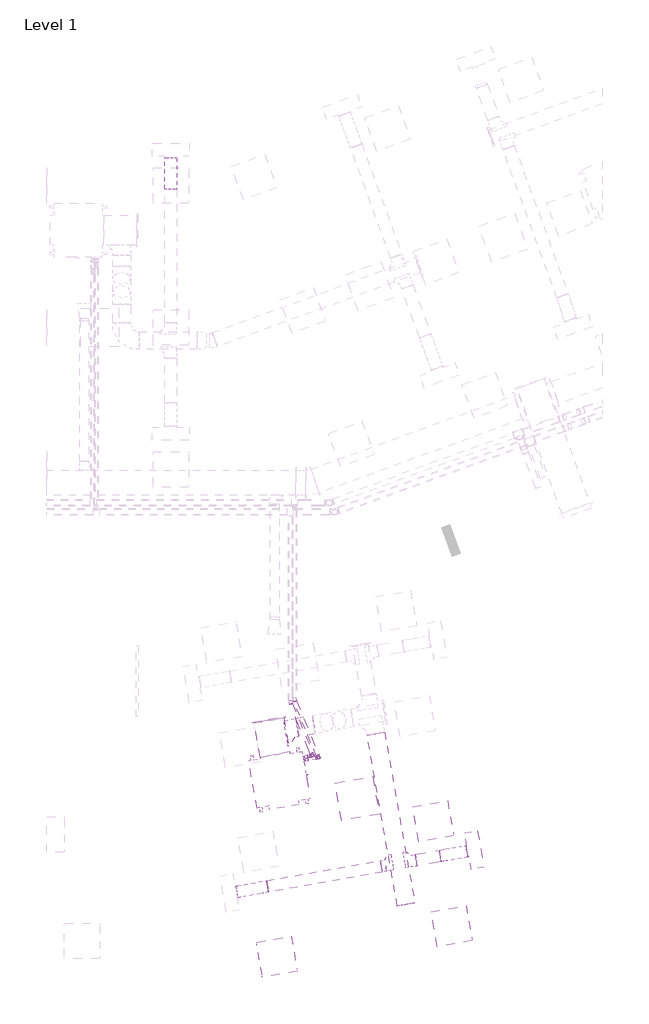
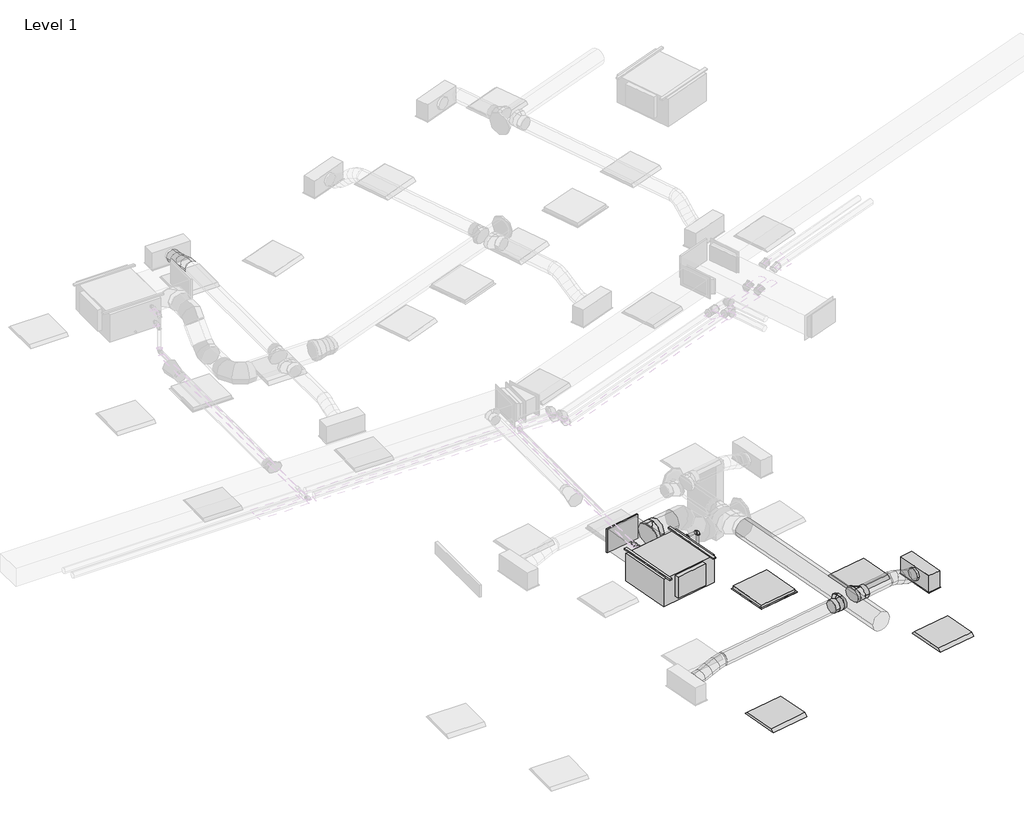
# One storey, part 15 of 30: 8 duct segments, 8 pipe fittings, 6 pipe segments, 4 duct fittings, 3 light fixtures, 2 air terminals, 1 proxy.
"""IFC4 building model written with IfcOpenShell, lengths in millimetres."""

from ifc_helpers import new_model, si_unit, point, frame, frame_2d, origin, place, context, project, spatial, polyline, circle_curve, ellipse_curve, trimmed, segment, composite_curve, outline, extrude, transform, mapped, element, save
from ifc_brep_helpers import plane_surface, cylinder_surface, advanced_brep
from components import return_grille_rectangular_hosted_standard_7b12617c, supply_diffuser_with_plenum_linear_slot_hosted_8e4f2f20, fan_coil_unit_ceiling_ducted_chw_376_lps_05d42c19, dw144_rectangular_blank_end_standard_8fde7d16, dw144_round_shoe_branch_slip_joint1_standard_2_3a899113, dw144_round_shoe_branch_slip_joint1_standard_2_809a1802, light_fixture_1c7c1157, light_fixture_b730b5ca, elbow_threaded_gmi_standard_b4aa7741, elbow_threaded_gmi_standard_b1050e4a, socket_reducing_threaded_gmi_standard_0a4076b8

model = new_model("IFC4")

# Units and contexts
model_context = context("Model", 3, world=origin())
ifc_project = project(units=[si_unit("LENGTHUNIT", "METRE", prefix="MILLI")], contexts=[model_context])

# Site, building, storey
site = spatial("IfcSite", under=ifc_project)
building = spatial("IfcBuilding", under=site)
storey = spatial("IfcBuildingStorey", under=building, Name="Level 1", Elevation=3900.0)

# Air terminals
placement = place(None, origin())
return_grille_rectangular_hosted_standard_shape = return_grille_rectangular_hosted_standard_7b12617c(model_context)
element("IfcAirTerminal", 1, ObjectType="Return Grille - Rectangular - Hosted : Standard", at=placement, inside=storey, context=model_context, shape_type="MappedRepresentation", body=[
    mapped(return_grille_rectangular_hosted_standard_shape, transform((33910.5082617, 3801.8100308, 6700.0), x_axis=(0.9848077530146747, 0.17364817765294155, 0.0), y_axis=(0.17364817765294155, -0.9848077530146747, 0.0), z_axis=(0.0, 0.0, -1.0))),
])
supply_diffuser_with_plenum_linear_slot_hosted_shape = supply_diffuser_with_plenum_linear_slot_hosted_8e4f2f20(model_context)
element("IfcAirTerminal", 2, ObjectType="Supply Diffuser with Plenum - Linear Slot - Hosted : 24\" x 8\"-200 In Inlet  4-Slot", at=placement, inside=storey, context=model_context, shape_type="MappedRepresentation", body=[
    mapped(supply_diffuser_with_plenum_linear_slot_hosted_shape, transform((35891.5400303, 2932.607447, 6700.0), x_axis=(0.1736481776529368, -0.9848077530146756, 0.0), y_axis=(-0.9848077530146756, -0.1736481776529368, 0.0), z_axis=(0.0, 0.0, -1.0))),
])

# Proxy
fan_coil_unit_ceiling_ducted_chw_376_lps_shape = fan_coil_unit_ceiling_ducted_chw_376_lps_05d42c19(model_context)
element("IfcBuildingElementProxy", 3, Name="Fan Coil Unit - Ceiling Ducted - CHW : 376 LPS", ObjectType="Fan Coil Unit - Ceiling Ducted - CHW : 376 LPS", at=placement, inside=storey, context=model_context, shape_type="MappedRepresentation", body=[
    mapped(fan_coil_unit_ceiling_ducted_chw_376_lps_shape, transform((32078.1076261, 4440.8551668, 7115.575), x_axis=(0.9848077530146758, 0.17364817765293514, 0.0), y_axis=(-0.17364817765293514, 0.9848077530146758, 0.0), z_axis=(0.0, 0.0, 1.0))),
])

# Duct fittings
dw144_rectangular_blank_end_standard_shape = dw144_rectangular_blank_end_standard_8fde7d16(model_context)
element("IfcDuctFitting", 4, ObjectType="DW144 Rectangular Blank End : Standard", at=placement, inside=storey, context=model_context, shape_type="MappedRepresentation", body=[
    mapped(dw144_rectangular_blank_end_standard_shape, transform((32422.2764887, 5121.8864184, 7369.575), x_axis=(-0.17364817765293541, 0.9848077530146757, 0.0), y_axis=(-0.9848077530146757, -0.17364817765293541, 0.0), z_axis=(0.0, 0.0, 1.0))),
])
dw144_round_shoe_branch_slip_joint1_standard_2_shape = dw144_round_shoe_branch_slip_joint1_standard_2_3a899113(model_context)
element("IfcDuctFitting", 5, ObjectType="DW144 Round Shoe Branch - Slip Joint1 : Standard 2", at=placement, inside=storey, context=model_context, shape_type="MappedRepresentation", body=[
    mapped(dw144_round_shoe_branch_slip_joint1_standard_2_shape, transform((34466.8544313, 2681.3969368, 6972.2088531), x_axis=(-0.9848077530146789, -0.17364817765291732, 0.0), y_axis=(0.17364817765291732, -0.9848077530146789, 0.0), z_axis=(0.0, 0.0, 1.0))),
])
element("IfcDuctFitting", 6, ObjectType="DW144 Round Shoe Branch - Slip Joint1 : Standard 2", at=placement, inside=storey, context=model_context, shape_type="MappedRepresentation", body=[
    mapped(dw144_round_shoe_branch_slip_joint1_standard_2_shape, transform((34762.2967572, 2733.4913901, 6972.2088531), x_axis=(0.9848077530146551, 0.1736481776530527, 0.0), y_axis=(0.1736481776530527, -0.9848077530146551, 0.0), z_axis=(0.0, 0.0, -1.0))),
])
dw144_round_shoe_branch_slip_joint1_standard_2_2_shape = dw144_round_shoe_branch_slip_joint1_standard_2_809a1802(model_context)
element("IfcDuctFitting", 7, ObjectType="DW144 Round Shoe Branch - Slip Joint1 : Standard 2", at=placement, inside=storey, context=model_context, shape_type="MappedRepresentation", body=[
    mapped(dw144_round_shoe_branch_slip_joint1_standard_2_2_shape, transform((32703.167519, 4968.5668456, 7369.575), x_axis=(0.9848077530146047, 0.17364817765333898, 0.0), y_axis=(-0.17364817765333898, 0.9848077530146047, 0.0), z_axis=(0.0, 0.0, 1.0))),
])

# Duct segments
element("IfcDuctSegment", 8, ObjectType="DW144 Flanged Med Radius Bend / Shoe Branch", at=placement, inside=storey, context=model_context, shape_type="SweptSolid", body=[
    extrude(outline(polyline([(32770.1530053, 4588.6732749), (32277.7491288, 4501.8491861), (32176.0745504, 5078.474374), (32668.4784269, 5165.2984628), (32770.1530053, 4588.6732749)])), frame((0.0, 0.0, 7194.575), z_axis=(0.0, 0.0, 1.0), x_axis=(1.0, 0.0, 0.0)), (0.0, 0.0, 1.0), 350.0),
])
element("IfcDuctSegment", 9, ObjectType="DW144 Segmented Bend / Shoe Branch", at=placement, inside=storey, context=model_context, shape_type="SweptSolid", body=[
    extrude(outline(composite_curve([segment(trimmed(circle_curve(frame_2d((0.0, 157.5)), 157.5), [point((157.5, 157.5))], [point((0.0, 0.0))], False, "CARTESIAN"), True, "CONTINUOUS"), segment(trimmed(circle_curve(frame_2d((0.0, 157.5)), 157.5), [point((0.0, 0.0))], [point((-157.5, 157.5))], False, "CARTESIAN"), True, "CONTINUOUS"), segment(trimmed(circle_curve(frame_2d((0.0, 157.5)), 157.5), [point((-157.5, 157.5))], [point((0.0, 315.0))], False, "CARTESIAN"), True, "CONTINUOUS"), segment(trimmed(circle_curve(frame_2d((0.0, 157.5)), 157.5), [point((0.0, 315.0))], [point((157.5, 157.5))], False, "CARTESIAN"), True, "CONTINUOUS")], self_intersect=False)), frame((32900.1290696, 5003.2964811, 7527.075), z_axis=(0.9848077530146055, 0.17364817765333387, 0.0), x_axis=(0.17364817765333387, -0.9848077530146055, 0.0)), (0.0, 0.0, 1.0), 282.8859657),
])
element("IfcDuctSegment", 10, ObjectType="DW144 Segmented Bend / Shoe Branch", at=placement, inside=storey, context=model_context, shape_type="SweptSolid", body=[
    extrude(outline(composite_curve([segment(trimmed(circle_curve(frame_2d((0.0, 100.0)), 100.0), [point((100.0, 100.0))], [point((0.0, 0.0))], False, "CARTESIAN"), True, "CONTINUOUS"), segment(trimmed(circle_curve(frame_2d((0.0, 100.0)), 100.0), [point((0.0, 0.0))], [point((-100.0, 100.0))], False, "CARTESIAN"), True, "CONTINUOUS"), segment(trimmed(circle_curve(frame_2d((0.0, 100.0)), 100.0), [point((-100.0, 100.0))], [point((0.0, 200.0))], False, "CARTESIAN"), True, "CONTINUOUS"), segment(trimmed(circle_curve(frame_2d((0.0, 100.0)), 100.0), [point((0.0, 200.0))], [point((100.0, 100.0))], False, "CARTESIAN"), True, "CONTINUOUS")], self_intersect=False)), frame((34910.0179201, 2759.5386168, 7072.2088531), z_axis=(0.9848077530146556, 0.1736481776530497, 0.0), x_axis=(0.1736481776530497, -0.9848077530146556, 0.0)), (0.0, 0.0, 1.0), 410.0),
])
element("IfcDuctSegment", 11, ObjectType="DW144 Segmented Bend / Shoe Branch", at=placement, inside=storey, context=model_context, shape_type="SweptSolid", body=[
    extrude(outline(composite_curve([segment(trimmed(circle_curve(frame_2d((0.0, -100.0)), 100.0), [point((-100.0, -100.0))], [point((0.0, 0.0))], False, "CARTESIAN"), True, "CONTINUOUS"), segment(trimmed(circle_curve(frame_2d((0.0, -100.0)), 100.0), [point((0.0, 0.0))], [point((100.0, -100.0))], False, "CARTESIAN"), True, "CONTINUOUS"), segment(trimmed(circle_curve(frame_2d((0.0, -100.0)), 100.0), [point((100.0, -100.0))], [point((0.0, -200.0))], False, "CARTESIAN"), True, "CONTINUOUS"), segment(trimmed(circle_curve(frame_2d((0.0, -100.0)), 100.0), [point((0.0, -200.0))], [point((-100.0, -100.0))], False, "CARTESIAN"), True, "CONTINUOUS")], self_intersect=False)), frame((32398.75815, 2316.7357638, 6872.2088531), z_axis=(0.9848077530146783, 0.1736481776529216, 0.0), x_axis=(0.1736481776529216, -0.9848077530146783, 0.0)), (0.0, 0.0, 1.0), 1950.0),
])
element("IfcDuctSegment", 12, ObjectType="DW144 Segmented Bend / Shoe Branch", at=placement, inside=storey, context=model_context, shape_type="SweptSolid", body=[
    extrude(outline(composite_curve([segment(trimmed(circle_curve(frame_2d((0.0, -150.0)), 150.0), [point((-150.0, -150.0))], [point((0.0, 0.0))], False, "CARTESIAN"), True, "CONTINUOUS"), segment(trimmed(circle_curve(frame_2d((0.0, -150.0)), 150.0), [point((0.0, 0.0))], [point((150.0, -150.0))], False, "CARTESIAN"), True, "CONTINUOUS"), segment(trimmed(circle_curve(frame_2d((0.0, -150.0)), 150.0), [point((150.0, -150.0))], [point((0.0, -300.0))], False, "CARTESIAN"), True, "CONTINUOUS"), segment(trimmed(circle_curve(frame_2d((0.0, -150.0)), 150.0), [point((0.0, -300.0))], [point((-150.0, -150.0))], False, "CARTESIAN"), True, "CONTINUOUS")], self_intersect=False)), frame((34737.6074608, 2009.6957754, 6822.2088531), z_axis=(-0.17364817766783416, 0.9848077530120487, 0.0), x_axis=(0.9848077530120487, 0.17364817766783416, 0.0)), (0.0, 0.0, 1.0), 2934.6959585),
])
element("IfcDuctSegment", 13, ObjectType="Flex - Round", at=placement, inside=storey, context=model_context, shape_type="AdvancedBrep", body=[
    advanced_brep(
    [(32416.1229677, 2218.2549885, 6972.2088531), (32398.75815, 2316.7357638, 6872.2088531), (32381.3933322, 2415.2165391, 6972.2088531), (32398.75815, 2316.7357638, 7072.2088531), (32402.5549785, 2215.8625859, 6972.2088531), (32392.7898887, 2315.6833983, 6872.2088531), (32367.825343, 2412.8241365, 6972.2088531), (32377.5904327, 2313.0033241, 7072.2088531), (31899.6540048, 2127.1875756, 6854.4), (31882.289187, 2225.6683509, 6954.4), (31864.9243693, 2324.1491262, 6854.4), (31882.289187, 2225.6683509, 6754.4), (32285.7990868, 2195.275372, 6953.8012198), (32290.7682954, 2297.6942388, 6856.1242166), (32251.0694513, 2392.2369226, 6953.8012198), (32246.1002427, 2289.8180559, 7051.478223), (32157.8884863, 2172.721282, 6913.3044266), (32169.8374093, 2276.3708607, 6817.8372171), (32123.1588507, 2369.6828326, 6913.3044266), (32111.2099277, 2266.0332539, 7008.771636), (32029.9778857, 2150.167192, 6872.8076333), (32034.9470943, 2252.5860588, 6775.1306301), (31995.2482502, 2347.1287427, 6872.8076333), (31990.2790416, 2244.7098759, 6970.4846365), (31913.221994, 2129.5799782, 6854.4), (31903.4569043, 2229.4007906, 6754.4), (31878.4923585, 2326.5415288, 6854.4), (31888.2574483, 2226.7207164, 6954.4)],
    [
        (0, 1, circle_curve(frame((32398.75815, 2316.7357638, 6972.2088531), z_axis=(0.9848077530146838, 0.17364817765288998, 0.0), x_axis=(0.17364817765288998, -0.9848077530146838, 0.0)), 100.0)),
        (1, 2, circle_curve(frame((32398.75815, 2316.7357638, 6972.2088531), z_axis=(0.9848077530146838, 0.17364817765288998, 0.0), x_axis=(0.17364817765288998, -0.9848077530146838, 0.0)), 100.0)),
        (2, 3, circle_curve(frame((32398.75815, 2316.7357638, 6972.2088531), z_axis=(0.9848077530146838, 0.17364817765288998, 0.0), x_axis=(0.17364817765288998, -0.9848077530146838, 0.0)), 100.0)),
        (3, 0, circle_curve(frame((32398.75815, 2316.7357638, 6972.2088531), z_axis=(0.9848077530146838, 0.17364817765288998, 0.0), x_axis=(0.17364817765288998, -0.9848077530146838, 0.0)), 100.0)),
        (0, 4),
        (4, 5, ellipse_curve(frame((32385.1901607, 2314.3433612, 6972.2088531), z_axis=(0.9818884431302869, 0.17313342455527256, 0.07694090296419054), x_axis=(0.07577199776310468, 0.013360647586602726, -0.997035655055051)), 100.2973158, 100.0)),
        (5, 1),
        (5, 6, ellipse_curve(frame((32385.1901607, 2314.3433612, 6972.2088531), z_axis=(0.9818884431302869, 0.17313342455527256, 0.07694090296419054), x_axis=(0.07577199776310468, 0.013360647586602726, -0.997035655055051)), 100.2973158, 100.0)),
        (6, 2),
        (6, 7, ellipse_curve(frame((32385.1901607, 2314.3433612, 6972.2088531), z_axis=(0.9818884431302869, 0.17313342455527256, 0.07694090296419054), x_axis=(0.07577199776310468, 0.013360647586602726, -0.997035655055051)), 100.2973158, 100.0)),
        (7, 3),
        (7, 4, ellipse_curve(frame((32385.1901607, 2314.3433612, 6972.2088531), z_axis=(0.9818884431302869, 0.17313342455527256, 0.07694090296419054), x_axis=(0.07577199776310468, 0.013360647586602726, -0.997035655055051)), 100.2973158, 100.0)),
        (8, 9, circle_curve(frame((31882.289187, 2225.6683509, 6854.4), z_axis=(-0.9848077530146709, -0.1736481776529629, 0.0), x_axis=(0.1736481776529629, -0.9848077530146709, 0.0)), 100.0)),
        (9, 10, circle_curve(frame((31882.289187, 2225.6683509, 6854.4), z_axis=(-0.9848077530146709, -0.1736481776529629, 0.0), x_axis=(0.1736481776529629, -0.9848077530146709, 0.0)), 100.0)),
        (10, 11, circle_curve(frame((31882.289187, 2225.6683509, 6854.4), z_axis=(-0.9848077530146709, -0.1736481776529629, 0.0), x_axis=(0.1736481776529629, -0.9848077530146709, 0.0)), 100.0)),
        (11, 8, circle_curve(frame((31882.289187, 2225.6683509, 6854.4), z_axis=(-0.9848077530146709, -0.1736481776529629, 0.0), x_axis=(0.1736481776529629, -0.9848077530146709, 0.0)), 100.0)),
        (4, 12),
        (12, 13, ellipse_curve(frame((32268.4342691, 2293.7561473, 6953.8012198), z_axis=(0.9592908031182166, 0.1691488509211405, 0.22616326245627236), x_axis=(0.22272733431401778, 0.03927283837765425, -0.9740894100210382)), 100.2751926, 100.0)),
        (13, 5),
        (13, 14, ellipse_curve(frame((32268.4342691, 2293.7561473, 6953.8012198), z_axis=(0.9592908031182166, 0.1691488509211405, 0.22616326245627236), x_axis=(0.22272733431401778, 0.03927283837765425, -0.9740894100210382)), 100.2751926, 100.0)),
        (14, 6),
        (14, 15, ellipse_curve(frame((32268.4342691, 2293.7561473, 6953.8012198), z_axis=(0.9592908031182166, 0.1691488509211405, 0.22616326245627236), x_axis=(0.22272733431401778, 0.03927283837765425, -0.9740894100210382)), 100.2751926, 100.0)),
        (15, 7),
        (15, 12, ellipse_curve(frame((32268.4342691, 2293.7561473, 6953.8012198), z_axis=(0.9592908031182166, 0.1691488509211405, 0.22616326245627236), x_axis=(0.22272733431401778, 0.03927283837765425, -0.9740894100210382)), 100.2751926, 100.0)),
        (12, 16),
        (16, 17, circle_curve(frame((32140.5236685, 2271.2020573, 6913.3044266), z_axis=(0.9401684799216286, 0.1657770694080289, 0.29765952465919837), x_axis=(0.17364817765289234, -0.9848077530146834, 0.0)), 100.0)),
        (17, 13),
        (17, 18, circle_curve(frame((32140.5236685, 2271.2020573, 6913.3044266), z_axis=(0.9401684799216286, 0.1657770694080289, 0.29765952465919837), x_axis=(0.17364817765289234, -0.9848077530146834, 0.0)), 100.0)),
        (18, 14),
        (18, 19, circle_curve(frame((32140.5236685, 2271.2020573, 6913.3044266), z_axis=(0.9401684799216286, 0.1657770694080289, 0.29765952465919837), x_axis=(0.17364817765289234, -0.9848077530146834, 0.0)), 100.0)),
        (19, 15),
        (19, 16, circle_curve(frame((32140.5236685, 2271.2020573, 6913.3044266), z_axis=(0.9401684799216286, 0.1657770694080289, 0.29765952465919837), x_axis=(0.17364817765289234, -0.9848077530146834, 0.0)), 100.0)),
        (16, 20),
        (20, 21, ellipse_curve(frame((32012.6130679, 2248.6479673, 6872.8076333), z_axis=(0.9592908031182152, 0.16914885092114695, 0.22616326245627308), x_axis=(-0.22272733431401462, -0.03927283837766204, 0.9740894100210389)), 100.2751926, 100.0)),
        (21, 17),
        (21, 22, ellipse_curve(frame((32012.6130679, 2248.6479673, 6872.8076333), z_axis=(0.9592908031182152, 0.16914885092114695, 0.22616326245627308), x_axis=(-0.22272733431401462, -0.03927283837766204, 0.9740894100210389)), 100.2751926, 100.0)),
        (22, 18),
        (22, 23, ellipse_curve(frame((32012.6130679, 2248.6479673, 6872.8076333), z_axis=(0.9592908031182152, 0.16914885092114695, 0.22616326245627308), x_axis=(-0.22272733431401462, -0.03927283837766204, 0.9740894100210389)), 100.2751926, 100.0)),
        (23, 19),
        (23, 20, ellipse_curve(frame((32012.6130679, 2248.6479673, 6872.8076333), z_axis=(0.9592908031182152, 0.16914885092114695, 0.22616326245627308), x_axis=(-0.22272733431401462, -0.03927283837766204, 0.9740894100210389)), 100.2751926, 100.0)),
        (20, 24),
        (24, 25, ellipse_curve(frame((31895.8571763, 2228.0607535, 6854.4), z_axis=(0.9818884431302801, 0.17313342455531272, 0.07694090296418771), x_axis=(-0.0757719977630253, -0.013360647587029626, 0.9970356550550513)), 100.2973158, 100.0)),
        (25, 21),
        (25, 26, ellipse_curve(frame((31895.8571763, 2228.0607535, 6854.4), z_axis=(0.9818884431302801, 0.17313342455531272, 0.07694090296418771), x_axis=(-0.0757719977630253, -0.013360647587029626, 0.9970356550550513)), 100.2973158, 100.0)),
        (26, 22),
        (26, 27, ellipse_curve(frame((31895.8571763, 2228.0607535, 6854.4), z_axis=(0.9818884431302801, 0.17313342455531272, 0.07694090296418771), x_axis=(-0.0757719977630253, -0.013360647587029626, 0.9970356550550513)), 100.2973158, 100.0)),
        (27, 23),
        (27, 24, ellipse_curve(frame((31895.8571763, 2228.0607535, 6854.4), z_axis=(0.9818884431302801, 0.17313342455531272, 0.07694090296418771), x_axis=(-0.0757719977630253, -0.013360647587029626, 0.9970356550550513)), 100.2973158, 100.0)),
        (24, 8),
        (11, 25),
        (10, 26),
        (9, 27),
    ],
    [
        plane_surface(frame((32398.75815, 2316.7357638, 6872.2088531), z_axis=(0.9848077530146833, 0.17364817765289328, 0.0), x_axis=(0.17364817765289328, -0.9848077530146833, 0.0))),
        cylinder_surface(frame((32398.75815, 2316.7357638, 6972.2088531), z_axis=(0.9848077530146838, 0.17364817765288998, 0.0), x_axis=(0.17364817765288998, -0.9848077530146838, 0.0)), 100.0),
        plane_surface(frame((31882.289187, 2225.6683509, 6754.4), z_axis=(-0.9848077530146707, -0.1736481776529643, 0.0), x_axis=(0.1736481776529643, -0.9848077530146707, 0.0))),
        cylinder_surface(frame((32385.1901607, 2314.3433612, 6972.2088531), z_axis=(0.9731478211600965, 0.17159221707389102, 0.15342564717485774), x_axis=(0.17364817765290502, -0.9848077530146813, 0.0)), 100.0),
        cylinder_surface(frame((32268.4342691, 2293.7561473, 6953.8012198), z_axis=(0.9401684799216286, 0.1657770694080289, 0.29765952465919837), x_axis=(0.17364817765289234, -0.9848077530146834, 0.0)), 100.0),
        cylinder_surface(frame((32140.5236685, 2271.2020573, 6913.3044266), z_axis=(0.9401684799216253, 0.16577706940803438, 0.2976595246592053), x_axis=(0.17364817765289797, -0.9848077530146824, 0.0)), 100.0),
        cylinder_surface(frame((32012.6130679, 2248.6479673, 6872.8076333), z_axis=(0.9731478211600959, 0.1715922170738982, 0.153425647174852), x_axis=(0.17364817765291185, -0.9848077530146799, 0.0)), 100.0),
        cylinder_surface(frame((31895.8571763, 2228.0607535, 6854.4), z_axis=(0.9848077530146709, 0.1736481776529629, 0.0), x_axis=(0.1736481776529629, -0.9848077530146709, 0.0)), 100.0),
    ],
    [
        (0, [[1, 2, 3, 4]]),
        (1, [[-1, 5, 6, 7]]),
        (1, [[-2, -7, 8, 9]]),
        (1, [[-3, -9, 10, 11]]),
        (1, [[-4, -11, 12, -5]]),
        (2, [[13, 14, 15, 16]]),
        (3, [[-6, 17, 18, 19]]),
        (3, [[-8, -19, 20, 21]]),
        (3, [[-10, -21, 22, 23]]),
        (3, [[-12, -23, 24, -17]]),
        (4, [[-18, 25, 26, 27]]),
        (4, [[-20, -27, 28, 29]]),
        (4, [[-22, -29, 30, 31]]),
        (4, [[-24, -31, 32, -25]]),
        (5, [[-26, 33, 34, 35]]),
        (5, [[-28, -35, 36, 37]]),
        (5, [[-30, -37, 38, 39]]),
        (5, [[-32, -39, 40, -33]]),
        (6, [[-34, 41, 42, 43]]),
        (6, [[-36, -43, 44, 45]]),
        (6, [[-38, -45, 46, 47]]),
        (6, [[-40, -47, 48, -41]]),
        (7, [[-42, 49, -16, 50]]),
        (7, [[-44, -50, -15, 51]]),
        (7, [[-46, -51, -14, 52]]),
        (7, [[-48, -52, -13, -49]]),
    ],
),
])
element("IfcDuctSegment", 14, ObjectType="Flex - Round", at=placement, inside=storey, context=model_context, shape_type="AdvancedBrep", body=[
    advanced_brep(
    [(35296.4242811, 2929.2151449, 6972.2088531), (35313.7890989, 2830.7343696, 6872.2088531), (35331.1539166, 2732.2535943, 6972.2088531), (35313.7890989, 2830.7343696, 7072.2088531), (35311.8796078, 2931.940336, 6972.2088531), (35320.2687944, 2831.8769148, 6872.2088531), (35346.6092434, 2734.9787854, 6972.2088531), (35338.2200568, 2835.0422067, 7072.2088531), (35747.2334932, 3008.7049722, 6854.4), (35764.598311, 2910.2241969, 6954.4), (35781.9631287, 2811.7434216, 6854.4), (35764.598311, 2910.2241969, 6754.4), (35410.503757, 2949.3304345, 6953.8012198), (35402.1917374, 2846.32214, 6856.9184044), (35445.2333925, 2752.3688839, 6953.8012198), (35453.545412, 2855.3771784, 7050.6840352), (35521.8288872, 2968.9600585, 6913.3044266), (35505.9805148, 2864.6229017, 6819.1631137), (35556.5585227, 2771.9985079, 6913.3044266), (35572.4068951, 2876.3356648, 7007.4457395), (35633.1540174, 2988.5896826, 6872.8076333), (35624.8419978, 2885.5813881, 6775.9248179), (35667.8836529, 2791.628132, 6872.8076333), (35676.1956724, 2894.6364265, 6969.6904487), (35731.7781665, 3005.9797811, 6854.4), (35740.1673531, 2905.9163598, 6754.4), (35766.507802, 2809.0182305, 6854.4), (35758.1186154, 2909.0816517, 6954.4)],
    [
        (0, 1, circle_curve(frame((35313.7890989, 2830.7343696, 6972.2088531), z_axis=(-0.984807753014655, -0.1736481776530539, 0.0), x_axis=(-0.1736481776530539, 0.984807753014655, 0.0)), 100.0)),
        (1, 2, circle_curve(frame((35313.7890989, 2830.7343696, 6972.2088531), z_axis=(-0.984807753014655, -0.1736481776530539, 0.0), x_axis=(-0.1736481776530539, 0.984807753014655, 0.0)), 100.0)),
        (2, 3, circle_curve(frame((35313.7890989, 2830.7343696, 6972.2088531), z_axis=(-0.984807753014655, -0.1736481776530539, 0.0), x_axis=(-0.1736481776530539, 0.984807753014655, 0.0)), 100.0)),
        (3, 0, circle_curve(frame((35313.7890989, 2830.7343696, 6972.2088531), z_axis=(-0.984807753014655, -0.1736481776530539, 0.0), x_axis=(-0.1736481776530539, 0.984807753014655, 0.0)), 100.0)),
        (0, 4),
        (4, 5, ellipse_curve(frame((35329.2444256, 2833.4595607, 6972.2088531), z_axis=(-0.9807428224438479, -0.1729314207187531, 0.09076475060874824), x_axis=(-0.08938583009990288, -0.015761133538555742, -0.9958723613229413)), 100.4144747, 100.0)),
        (5, 1),
        (5, 6, ellipse_curve(frame((35329.2444256, 2833.4595607, 6972.2088531), z_axis=(-0.9807428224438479, -0.1729314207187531, 0.09076475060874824), x_axis=(-0.08938583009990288, -0.015761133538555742, -0.9958723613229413)), 100.4144747, 100.0)),
        (6, 2),
        (6, 7, ellipse_curve(frame((35329.2444256, 2833.4595607, 6972.2088531), z_axis=(-0.9807428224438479, -0.1729314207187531, 0.09076475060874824), x_axis=(-0.08938583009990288, -0.015761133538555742, -0.9958723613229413)), 100.4144747, 100.0)),
        (7, 3),
        (7, 4, ellipse_curve(frame((35329.2444256, 2833.4595607, 6972.2088531), z_axis=(-0.9807428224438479, -0.1729314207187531, 0.09076475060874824), x_axis=(-0.08938583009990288, -0.015761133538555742, -0.9958723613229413)), 100.4144747, 100.0)),
        (8, 9, circle_curve(frame((35764.598311, 2910.2241969, 6854.4), z_axis=(0.9848077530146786, 0.1736481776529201, 0.0), x_axis=(-0.1736481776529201, 0.9848077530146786, 0.0)), 100.0)),
        (9, 10, circle_curve(frame((35764.598311, 2910.2241969, 6854.4), z_axis=(0.9848077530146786, 0.1736481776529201, 0.0), x_axis=(-0.1736481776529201, 0.9848077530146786, 0.0)), 100.0)),
        (10, 11, circle_curve(frame((35764.598311, 2910.2241969, 6854.4), z_axis=(0.9848077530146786, 0.1736481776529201, 0.0), x_axis=(-0.1736481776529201, 0.9848077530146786, 0.0)), 100.0)),
        (11, 8, circle_curve(frame((35764.598311, 2910.2241969, 6854.4), z_axis=(0.9848077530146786, 0.1736481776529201, 0.0), x_axis=(-0.1736481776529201, 0.9848077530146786, 0.0)), 100.0)),
        (4, 12),
        (12, 13, ellipse_curve(frame((35427.8685747, 2850.8496592, 6953.8012198), z_axis=(-0.9509727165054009, -0.16768214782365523, 0.2598722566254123), x_axis=(-0.25592421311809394, -0.045126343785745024, -0.9656430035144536)), 100.3298476, 100.0)),
        (13, 5),
        (13, 14, ellipse_curve(frame((35427.8685747, 2850.8496592, 6953.8012198), z_axis=(-0.9509727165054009, -0.16768214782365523, 0.2598722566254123), x_axis=(-0.25592421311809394, -0.045126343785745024, -0.9656430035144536)), 100.3298476, 100.0)),
        (14, 6),
        (14, 15, ellipse_curve(frame((35427.8685747, 2850.8496592, 6953.8012198), z_axis=(-0.9509727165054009, -0.16768214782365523, 0.2598722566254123), x_axis=(-0.25592421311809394, -0.045126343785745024, -0.9656430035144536)), 100.3298476, 100.0)),
        (15, 7),
        (15, 12, ellipse_curve(frame((35427.8685747, 2850.8496592, 6953.8012198), z_axis=(-0.9509727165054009, -0.16768214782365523, 0.2598722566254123), x_axis=(-0.25592421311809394, -0.045126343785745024, -0.9656430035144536)), 100.3298476, 100.0)),
        (12, 16),
        (16, 17, circle_curve(frame((35539.1937049, 2870.4792832, 6913.3044266), z_axis=(-0.9271109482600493, -0.16347467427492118, 0.33725557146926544), x_axis=(-0.1736481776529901, 0.9848077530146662, 0.0)), 100.0)),
        (17, 13),
        (17, 18, circle_curve(frame((35539.1937049, 2870.4792832, 6913.3044266), z_axis=(-0.9271109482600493, -0.16347467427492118, 0.33725557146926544), x_axis=(-0.1736481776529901, 0.9848077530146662, 0.0)), 100.0)),
        (18, 14),
        (18, 19, circle_curve(frame((35539.1937049, 2870.4792832, 6913.3044266), z_axis=(-0.9271109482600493, -0.16347467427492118, 0.33725557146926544), x_axis=(-0.1736481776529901, 0.9848077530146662, 0.0)), 100.0)),
        (19, 15),
        (19, 16, circle_curve(frame((35539.1937049, 2870.4792832, 6913.3044266), z_axis=(-0.9271109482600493, -0.16347467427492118, 0.33725557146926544), x_axis=(-0.1736481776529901, 0.9848077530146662, 0.0)), 100.0)),
        (16, 20),
        (20, 21, ellipse_curve(frame((35650.5188351, 2890.1089073, 6872.8076333), z_axis=(-0.95097271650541, -0.16768214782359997, 0.2598722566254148), x_axis=(0.25592421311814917, 0.045126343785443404, 0.9656430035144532)), 100.3298476, 100.0)),
        (21, 17),
        (21, 22, ellipse_curve(frame((35650.5188351, 2890.1089073, 6872.8076333), z_axis=(-0.95097271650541, -0.16768214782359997, 0.2598722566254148), x_axis=(0.25592421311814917, 0.045126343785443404, 0.9656430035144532)), 100.3298476, 100.0)),
        (22, 18),
        (22, 23, ellipse_curve(frame((35650.5188351, 2890.1089073, 6872.8076333), z_axis=(-0.95097271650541, -0.16768214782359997, 0.2598722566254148), x_axis=(0.25592421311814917, 0.045126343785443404, 0.9656430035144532)), 100.3298476, 100.0)),
        (23, 19),
        (23, 20, ellipse_curve(frame((35650.5188351, 2890.1089073, 6872.8076333), z_axis=(-0.95097271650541, -0.16768214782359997, 0.2598722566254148), x_axis=(0.25592421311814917, 0.045126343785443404, 0.9656430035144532)), 100.3298476, 100.0)),
        (20, 24),
        (24, 25, ellipse_curve(frame((35749.1429843, 2907.4990058, 6854.4), z_axis=(-0.9807428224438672, -0.17293142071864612, 0.09076475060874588), x_axis=(0.08938583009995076, 0.015761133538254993, 0.995872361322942)), 100.4144747, 100.0)),
        (25, 21),
        (25, 26, ellipse_curve(frame((35749.1429843, 2907.4990058, 6854.4), z_axis=(-0.9807428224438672, -0.17293142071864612, 0.09076475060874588), x_axis=(0.08938583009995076, 0.015761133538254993, 0.995872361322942)), 100.4144747, 100.0)),
        (26, 22),
        (26, 27, ellipse_curve(frame((35749.1429843, 2907.4990058, 6854.4), z_axis=(-0.9807428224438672, -0.17293142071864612, 0.09076475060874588), x_axis=(0.08938583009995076, 0.015761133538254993, 0.995872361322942)), 100.4144747, 100.0)),
        (27, 23),
        (27, 24, ellipse_curve(frame((35749.1429843, 2907.4990058, 6854.4), z_axis=(-0.9807428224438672, -0.17293142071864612, 0.09076475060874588), x_axis=(0.08938583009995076, 0.015761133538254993, 0.995872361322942)), 100.4144747, 100.0)),
        (24, 8),
        (11, 25),
        (10, 26),
        (9, 27),
    ],
    [
        plane_surface(frame((35313.7890989, 2830.7343696, 7072.2088531), z_axis=(-0.9848077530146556, -0.1736481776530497, 0.0), x_axis=(0.1736481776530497, -0.9848077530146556, 0.0))),
        cylinder_surface(frame((35313.7890989, 2830.7343696, 6972.2088531), z_axis=(-0.984807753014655, -0.1736481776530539, 0.0), x_axis=(-0.1736481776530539, 0.984807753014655, 0.0)), 100.0),
        plane_surface(frame((35764.598311, 2910.2241969, 6954.4), z_axis=(0.9848077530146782, 0.17364817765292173, 0.0), x_axis=(0.17364817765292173, -0.9848077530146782, 0.0))),
        cylinder_surface(frame((35329.2444256, 2833.4595607, 6972.2088531), z_axis=(-0.9685815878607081, -0.17078706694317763, 0.18078021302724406), x_axis=(-0.1736481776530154, 0.9848077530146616, 0.0)), 100.0),
        cylinder_surface(frame((35427.8685747, 2850.8496592, 6953.8012198), z_axis=(-0.9271109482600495, -0.1634746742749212, 0.3372555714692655), x_axis=(-0.1736481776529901, 0.9848077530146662, 0.0)), 100.0),
        cylinder_surface(frame((35539.1937049, 2870.4792832, 6913.3044266), z_axis=(-0.9271109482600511, -0.16347467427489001, 0.33725557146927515), x_axis=(-0.17364817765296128, 0.9848077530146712, 0.0)), 100.0),
        cylinder_surface(frame((35650.5188351, 2890.1089073, 6872.8076333), z_axis=(-0.9685815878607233, -0.17078706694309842, 0.18078021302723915), x_axis=(-0.17364817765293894, 0.9848077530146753, 0.0)), 100.0),
        cylinder_surface(frame((35749.1429843, 2907.4990058, 6854.4), z_axis=(-0.9848077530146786, -0.1736481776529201, 0.0), x_axis=(-0.1736481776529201, 0.9848077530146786, 0.0)), 100.0),
    ],
    [
        (0, [[1, 2, 3, 4]]),
        (1, [[-1, 5, 6, 7]]),
        (1, [[-2, -7, 8, 9]]),
        (1, [[-3, -9, 10, 11]]),
        (1, [[-4, -11, 12, -5]]),
        (2, [[13, 14, 15, 16]]),
        (3, [[-6, 17, 18, 19]]),
        (3, [[-8, -19, 20, 21]]),
        (3, [[-10, -21, 22, 23]]),
        (3, [[-12, -23, 24, -17]]),
        (4, [[-18, 25, 26, 27]]),
        (4, [[-20, -27, 28, 29]]),
        (4, [[-22, -29, 30, 31]]),
        (4, [[-24, -31, 32, -25]]),
        (5, [[-26, 33, 34, 35]]),
        (5, [[-28, -35, 36, 37]]),
        (5, [[-30, -37, 38, 39]]),
        (5, [[-32, -39, 40, -33]]),
        (6, [[-34, 41, 42, 43]]),
        (6, [[-36, -43, 44, 45]]),
        (6, [[-38, -45, 46, 47]]),
        (6, [[-40, -47, 48, -41]]),
        (7, [[-42, 49, -16, 50]]),
        (7, [[-44, -50, -15, 51]]),
        (7, [[-46, -51, -14, 52]]),
        (7, [[-48, -52, -13, -49]]),
    ],
),
])
element("IfcDuctSegment", 15, ObjectType="Flex - Round", at=placement, inside=storey, context=model_context, shape_type="AdvancedBrep", body=[
    advanced_brep(
    [(30662.2000027, 14100.4916128, 6972.2088531), (30762.2000027, 14100.4916128, 6872.2088531), (30862.2000027, 14100.4916128, 6972.2088531), (30762.2000027, 14100.4916128, 7072.2088531), (30662.2000027, 14114.0357302, 6972.2088531), (30762.2000027, 14106.4797066, 6872.2088531), (30862.2000027, 14114.0357302, 6972.2088531), (30762.2000027, 14121.5917538, 7072.2088531), (30662.2000027, 14634.3000004, 6854.4), (30762.2000027, 14634.3000004, 6954.4), (30862.2000027, 14634.3000004, 6854.4), (30762.2000027, 14634.3000004, 6754.4), (30662.2000027, 14235.1479623, 6953.8012198), (30762.2000027, 14212.875909, 6856.0378831), (30862.2000027, 14235.1479623, 6953.8012198), (30762.2000027, 14257.4200155, 7051.5645566), (30662.2000027, 14367.3958066, 6913.3044266), (30762.2000027, 14338.1159448, 6817.6870134), (30862.2000027, 14367.3958066, 6913.3044266), (30762.2000027, 14396.6756684, 7008.9218397), (30662.2000027, 14499.643651, 6872.8076333), (30762.2000027, 14477.3715977, 6775.0442965), (30862.2000027, 14499.643651, 6872.8076333), (30762.2000027, 14521.9157042, 6970.5709701), (30662.2000027, 14620.755883, 6854.4), (30762.2000027, 14613.1998594, 6754.4), (30862.2000027, 14620.755883, 6854.4), (30762.2000027, 14628.3119066, 6954.4)],
    [
        (0, 1, circle_curve(frame((30762.2000027, 14100.4916128, 6972.2088531), z_axis=(0.0, -1.0, 0.0), x_axis=(-1.0, 0.0, 0.0)), 100.0)),
        (1, 2, circle_curve(frame((30762.2000027, 14100.4916128, 6972.2088531), z_axis=(0.0, -1.0, 0.0), x_axis=(-1.0, 0.0, 0.0)), 100.0)),
        (2, 3, circle_curve(frame((30762.2000027, 14100.4916128, 6972.2088531), z_axis=(0.0, -1.0, 0.0), x_axis=(-1.0, 0.0, 0.0)), 100.0)),
        (3, 0, circle_curve(frame((30762.2000027, 14100.4916128, 6972.2088531), z_axis=(0.0, -1.0, 0.0), x_axis=(-1.0, 0.0, 0.0)), 100.0)),
        (0, 4),
        (4, 5, ellipse_curve(frame((30762.2000027, 14114.0357302, 6972.2088531), z_axis=(0.0, -0.9971574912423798, 0.07534545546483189), x_axis=(0.0, -0.0753454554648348, -0.9971574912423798)), 100.2850612, 100.0)),
        (5, 1),
        (5, 6, ellipse_curve(frame((30762.2000027, 14114.0357302, 6972.2088531), z_axis=(0.0, -0.9971574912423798, 0.07534545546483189), x_axis=(0.0, -0.0753454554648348, -0.9971574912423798)), 100.2850612, 100.0)),
        (6, 2),
        (6, 7, ellipse_curve(frame((30762.2000027, 14114.0357302, 6972.2088531), z_axis=(0.0, -0.9971574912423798, 0.07534545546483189), x_axis=(0.0, -0.0753454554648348, -0.9971574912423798)), 100.2850612, 100.0)),
        (7, 3),
        (7, 4, ellipse_curve(frame((30762.2000027, 14114.0357302, 6972.2088531), z_axis=(0.0, -0.9971574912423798, 0.07534545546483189), x_axis=(0.0, -0.0753454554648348, -0.9971574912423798)), 100.2850612, 100.0)),
        (8, 9, circle_curve(frame((30762.2000027, 14634.3000004, 6854.4), z_axis=(0.0, 1.0, 0.0), x_axis=(-1.0, 0.0, 0.0)), 100.0)),
        (9, 10, circle_curve(frame((30762.2000027, 14634.3000004, 6854.4), z_axis=(0.0, 1.0, 0.0), x_axis=(-1.0, 0.0, 0.0)), 100.0)),
        (10, 11, circle_curve(frame((30762.2000027, 14634.3000004, 6854.4), z_axis=(0.0, 1.0, 0.0), x_axis=(-1.0, 0.0, 0.0)), 100.0)),
        (11, 8, circle_curve(frame((30762.2000027, 14634.3000004, 6854.4), z_axis=(0.0, 1.0, 0.0), x_axis=(-1.0, 0.0, 0.0)), 100.0)),
        (4, 12),
        (12, 13, ellipse_curve(frame((30762.2000027, 14235.1479623, 6953.8012198), z_axis=(0.0, -0.9750182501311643, 0.22212476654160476), x_axis=(0.0, -0.22212476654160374, -0.9750182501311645)), 100.2682122, 100.0)),
        (13, 5),
        (13, 14, ellipse_curve(frame((30762.2000027, 14235.1479623, 6953.8012198), z_axis=(0.0, -0.9750182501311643, 0.22212476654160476), x_axis=(0.0, -0.22212476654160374, -0.9750182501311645)), 100.2682122, 100.0)),
        (14, 6),
        (14, 15, ellipse_curve(frame((30762.2000027, 14235.1479623, 6953.8012198), z_axis=(0.0, -0.9750182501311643, 0.22212476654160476), x_axis=(0.0, -0.22212476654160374, -0.9750182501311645)), 100.2682122, 100.0)),
        (15, 7),
        (15, 12, ellipse_curve(frame((30762.2000027, 14235.1479623, 6953.8012198), z_axis=(0.0, -0.9750182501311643, 0.22212476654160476), x_axis=(0.0, -0.22212476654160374, -0.9750182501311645)), 100.2682122, 100.0)),
        (12, 16),
        (16, 17, circle_curve(frame((30762.2000027, 14367.3958066, 6913.3044266), z_axis=(0.0, -0.9561741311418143, 0.29279861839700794), x_axis=(-1.0, 0.0, 0.0)), 100.0)),
        (17, 13),
        (17, 18, circle_curve(frame((30762.2000027, 14367.3958066, 6913.3044266), z_axis=(0.0, -0.9561741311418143, 0.29279861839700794), x_axis=(-1.0, 0.0, 0.0)), 100.0)),
        (18, 14),
        (18, 19, circle_curve(frame((30762.2000027, 14367.3958066, 6913.3044266), z_axis=(0.0, -0.9561741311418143, 0.29279861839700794), x_axis=(-1.0, 0.0, 0.0)), 100.0)),
        (19, 15),
        (19, 16, circle_curve(frame((30762.2000027, 14367.3958066, 6913.3044266), z_axis=(0.0, -0.9561741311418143, 0.29279861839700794), x_axis=(-1.0, 0.0, 0.0)), 100.0)),
        (16, 20),
        (20, 21, ellipse_curve(frame((30762.2000027, 14499.643651, 6872.8076333), z_axis=(0.0, -0.9750182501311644, 0.2221247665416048), x_axis=(0.0, 0.22212476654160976, 0.9750182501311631)), 100.2682122, 100.0)),
        (21, 17),
        (21, 22, ellipse_curve(frame((30762.2000027, 14499.643651, 6872.8076333), z_axis=(0.0, -0.9750182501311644, 0.2221247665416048), x_axis=(0.0, 0.22212476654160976, 0.9750182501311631)), 100.2682122, 100.0)),
        (22, 18),
        (22, 23, ellipse_curve(frame((30762.2000027, 14499.643651, 6872.8076333), z_axis=(0.0, -0.9750182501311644, 0.2221247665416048), x_axis=(0.0, 0.22212476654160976, 0.9750182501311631)), 100.2682122, 100.0)),
        (23, 19),
        (23, 20, ellipse_curve(frame((30762.2000027, 14499.643651, 6872.8076333), z_axis=(0.0, -0.9750182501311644, 0.2221247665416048), x_axis=(0.0, 0.22212476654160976, 0.9750182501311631)), 100.2682122, 100.0)),
        (20, 24),
        (24, 25, ellipse_curve(frame((30762.2000027, 14620.755883, 6854.4), z_axis=(0.0, -0.9971574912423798, 0.07534545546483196), x_axis=(0.0, 0.07534545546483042, 0.9971574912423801)), 100.2850612, 100.0)),
        (25, 21),
        (25, 26, ellipse_curve(frame((30762.2000027, 14620.755883, 6854.4), z_axis=(0.0, -0.9971574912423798, 0.07534545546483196), x_axis=(0.0, 0.07534545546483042, 0.9971574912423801)), 100.2850612, 100.0)),
        (26, 22),
        (26, 27, ellipse_curve(frame((30762.2000027, 14620.755883, 6854.4), z_axis=(0.0, -0.9971574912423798, 0.07534545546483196), x_axis=(0.0, 0.07534545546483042, 0.9971574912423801)), 100.2850612, 100.0)),
        (27, 23),
        (27, 24, ellipse_curve(frame((30762.2000027, 14620.755883, 6854.4), z_axis=(0.0, -0.9971574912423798, 0.07534545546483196), x_axis=(0.0, 0.07534545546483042, 0.9971574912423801)), 100.2850612, 100.0)),
        (24, 8),
        (11, 25),
        (10, 26),
        (9, 27),
    ],
    [
        plane_surface(frame((30662.2000027, 14100.4916128, 6972.2088531), z_axis=(0.0, -1.0, 0.0), x_axis=(0.0, 0.0, 1.0))),
        cylinder_surface(frame((30762.2000027, 14100.4916128, 6972.2088531), z_axis=(0.0, -1.0, 0.0), x_axis=(-1.0, 0.0, 0.0)), 100.0),
        plane_surface(frame((30662.2000027, 14634.3000004, 6854.4), z_axis=(0.0, 1.0, 0.0), x_axis=(0.0, 0.0, 1.0))),
        cylinder_surface(frame((30762.2000027, 14114.0357302, 6972.2088531), z_axis=(0.0, -0.9886461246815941, 0.15026257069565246), x_axis=(-1.0, 0.0, 0.0)), 100.0),
        cylinder_surface(frame((30762.2000027, 14235.1479623, 6953.8012198), z_axis=(0.0, -0.9561741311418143, 0.29279861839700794), x_axis=(-1.0, 0.0, 0.0)), 100.0),
        cylinder_surface(frame((30762.2000027, 14367.3958066, 6913.3044266), z_axis=(0.0, -0.9561741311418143, 0.29279861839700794), x_axis=(-1.0, 0.0, 0.0)), 100.0),
        cylinder_surface(frame((30762.2000027, 14499.643651, 6872.8076333), z_axis=(0.0, -0.9886461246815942, 0.15026257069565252), x_axis=(-1.0, 0.0, 0.0)), 100.0),
        cylinder_surface(frame((30762.2000027, 14620.755883, 6854.4), z_axis=(0.0, -1.0, 0.0), x_axis=(-1.0, 0.0, 0.0)), 100.0),
    ],
    [
        (0, [[1, 2, 3, 4]]),
        (1, [[-1, 5, 6, 7]]),
        (1, [[-2, -7, 8, 9]]),
        (1, [[-3, -9, 10, 11]]),
        (1, [[-4, -11, 12, -5]]),
        (2, [[13, 14, 15, 16]]),
        (3, [[-6, 17, 18, 19]]),
        (3, [[-8, -19, 20, 21]]),
        (3, [[-10, -21, 22, 23]]),
        (3, [[-12, -23, 24, -17]]),
        (4, [[-18, 25, 26, 27]]),
        (4, [[-20, -27, 28, 29]]),
        (4, [[-22, -29, 30, 31]]),
        (4, [[-24, -31, 32, -25]]),
        (5, [[-26, 33, 34, 35]]),
        (5, [[-28, -35, 36, 37]]),
        (5, [[-30, -37, 38, 39]]),
        (5, [[-32, -39, 40, -33]]),
        (6, [[-34, 41, 42, 43]]),
        (6, [[-36, -43, 44, 45]]),
        (6, [[-38, -45, 46, 47]]),
        (6, [[-40, -47, 48, -41]]),
        (7, [[-42, 49, -16, 50]]),
        (7, [[-44, -50, -15, 51]]),
        (7, [[-46, -51, -14, 52]]),
        (7, [[-48, -52, -13, -49]]),
    ],
),
])

# Light fixtures
light_fixture_shape = light_fixture_1c7c1157(model_context)
element("IfcLightFixture", 16, ObjectType="ELEKTRA Plain Recessed Lighting Fixture : 24\" x 24\" - 230", at=placement, inside=storey, context=model_context, shape_type="MappedRepresentation", body=[
    mapped(light_fixture_shape, transform((35265.6853191, 1299.1124575, 6700.0), x_axis=(0.9848077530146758, 0.17364817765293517, 0.0), y_axis=(0.17364817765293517, -0.9848077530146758, 0.0), z_axis=(0.0, 0.0, -1.0))),
])
element("IfcLightFixture", 17, ObjectType="ELEKTRA Plain Recessed Lighting Fixture : 24\" x 24\" - 230", at=placement, inside=storey, context=model_context, shape_type="MappedRepresentation", body=[
    mapped(light_fixture_shape, transform((34953.1185993, 3071.766413, 6700.0), x_axis=(0.9848077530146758, 0.17364817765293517, 0.0), y_axis=(0.17364817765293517, -0.9848077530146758, 0.0), z_axis=(0.0, 0.0, -1.0))),
])
light_fixture_2_shape = light_fixture_b730b5ca(model_context)
element("IfcLightFixture", 18, ObjectType="ELEKTRA EM Recessed Lighting Fixture : 24\" x 24\" - 230", at=placement, inside=storey, context=model_context, shape_type="MappedRepresentation", body=[
    mapped(light_fixture_2_shape, transform((32311.2620601, 778.1679246, 6700.0), x_axis=(0.9848077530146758, 0.17364817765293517, 0.0), y_axis=(0.17364817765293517, -0.9848077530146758, 0.0), z_axis=(0.0, 0.0, -1.0))),
])

# Pipe fittings
elbow_threaded_gmi_standard_shape = elbow_threaded_gmi_standard_b4aa7741(model_context)
element("IfcPipeFitting", 19, ObjectType="Elbow - Threaded - GMI : Standard", at=placement, inside=storey, context=model_context, shape_type="MappedRepresentation", body=[
    mapped(elbow_threaded_gmi_standard_shape, transform((33258.6487272, 4494.2653991, 6793.9343179), x_axis=(0.38268343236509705, -0.9238795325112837, 0.0), y_axis=(0.0, 0.0, 1.0), z_axis=(-0.9238795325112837, -0.38268343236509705, 0.0))),
])
element("IfcPipeFitting", 20, ObjectType="Elbow - Threaded - GMI : Standard", at=placement, inside=storey, context=model_context, shape_type="MappedRepresentation", body=[
    mapped(elbow_threaded_gmi_standard_shape, transform((33156.9501044, 4527.9168598, 6880.0), x_axis=(0.38268343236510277, -0.9238795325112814, 0.0), y_axis=(0.0, 0.0, 1.0), z_axis=(-0.9238795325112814, -0.38268343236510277, 0.0))),
])
element("IfcPipeFitting", 21, ObjectType="Elbow - Threaded - GMI : Standard", at=placement, inside=storey, context=model_context, shape_type="MappedRepresentation", body=[
    mapped(elbow_threaded_gmi_standard_shape, transform((33258.6487272, 4494.2653991, 7496.575), x_axis=(0.0, 0.0, 1.0), y_axis=(-0.9848077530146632, -0.17364817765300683, 0.0), z_axis=(0.17364817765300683, -0.9848077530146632, 0.0))),
])
element("IfcPipeFitting", 22, ObjectType="Elbow - Threaded - GMI : Standard", at=placement, inside=storey, context=model_context, shape_type="MappedRepresentation", body=[
    mapped(elbow_threaded_gmi_standard_shape, transform((33156.9501044, 4527.9168598, 7217.175), x_axis=(0.0, 0.0, 1.0), y_axis=(-0.9848077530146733, -0.1736481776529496, 0.0), z_axis=(0.1736481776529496, -0.9848077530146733, 0.0))),
])
elbow_threaded_gmi_standard_2_shape = elbow_threaded_gmi_standard_b1050e4a(model_context)
element("IfcPipeFitting", 23, ObjectType="Elbow - Threaded - GMI : Standard", at=placement, inside=storey, context=model_context, shape_type="MappedRepresentation", body=[
    mapped(elbow_threaded_gmi_standard_2_shape, transform((32783.0709173, 5430.5410641, 6880.0), x_axis=(0.0, -1.0, 0.0), y_axis=(1.0, 0.0, 0.0), z_axis=(0.0, 0.0, 1.0))),
])
element("IfcPipeFitting", 24, ObjectType="Elbow - Threaded - GMI : Standard", at=placement, inside=storey, context=model_context, shape_type="MappedRepresentation", body=[
    mapped(elbow_threaded_gmi_standard_2_shape, transform((32852.6203975, 5474.5044994, 6793.9343179), x_axis=(0.0, -1.0, 0.0), y_axis=(1.0, 0.0, 0.0), z_axis=(0.0, 0.0, 1.0))),
])
socket_reducing_threaded_gmi_standard_shape = socket_reducing_threaded_gmi_standard_0a4076b8(model_context)
element("IfcPipeFitting", 25, ObjectType="Socket Reducing - Threaded - GMI : Standard", at=placement, inside=storey, context=model_context, shape_type="MappedRepresentation", body=[
    mapped(socket_reducing_threaded_gmi_standard_shape, transform((33021.2726072, 4503.9932564, 7217.175), x_axis=(0.9848077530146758, 0.17364817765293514, 0.0), y_axis=(-0.17364817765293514, 0.9848077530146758, 0.0), z_axis=(0.0, 0.0, 1.0))),
])
element("IfcPipeFitting", 26, ObjectType="Socket Reducing - Threaded - GMI : Standard", at=placement, inside=storey, context=model_context, shape_type="MappedRepresentation", body=[
    mapped(socket_reducing_threaded_gmi_standard_shape, transform((33030.0939346, 4453.9650226, 7496.575), x_axis=(0.9848077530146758, 0.17364817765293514, 0.0), y_axis=(-0.17364817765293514, 0.9848077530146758, 0.0), z_axis=(0.0, 0.0, 1.0))),
])

# Pipe segments
element("IfcPipeSegment", 27, ObjectType="Carbon Steel - Threaded", at=placement, inside=storey, context=model_context, shape_type="SweptSolid", body=[
    extrude(outline(composite_curve([segment(trimmed(circle_curve(frame_2d((0.0, -21.45)), 21.45), [point((-21.4499999, -21.45))], [point((0.0, 0.0))], False, "CARTESIAN"), True, "CONTINUOUS"), segment(trimmed(circle_curve(frame_2d((0.0, -21.45)), 21.45), [point((0.0, 0.0))], [point((21.45, -21.45))], False, "CARTESIAN"), True, "CONTINUOUS"), segment(trimmed(circle_curve(frame_2d((0.0, -21.45)), 21.45), [point((21.45, -21.45))], [point((0.0, -42.9))], False, "CARTESIAN"), True, "CONTINUOUS"), segment(trimmed(circle_curve(frame_2d((0.0, -21.45)), 21.45), [point((0.0, -42.9))], [point((-21.4499999, -21.45))], False, "CARTESIAN"), True, "CONTINUOUS")], self_intersect=False)), frame((33139.7293499, 4569.4914388, 6858.55), z_axis=(-0.3826834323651, 0.9238795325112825, 0.0), x_axis=(0.9238795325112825, 0.3826834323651, 0.0)), (0.0, 0.0, 1.0), 898.9933984),
])
element("IfcPipeSegment", 28, ObjectType="Carbon Steel - Threaded", at=placement, inside=storey, context=model_context, shape_type="SweptSolid", body=[
    extrude(outline(composite_curve([segment(trimmed(circle_curve(frame_2d((0.0, -21.45)), 21.45), [point((-21.45, -21.45))], [point((0.0, 0.0))], False, "CARTESIAN"), True, "CONTINUOUS"), segment(trimmed(circle_curve(frame_2d((0.0, -21.45)), 21.45), [point((0.0, 0.0))], [point((21.4499999, -21.45))], False, "CARTESIAN"), True, "CONTINUOUS"), segment(trimmed(circle_curve(frame_2d((0.0, -21.45)), 21.45), [point((21.4499999, -21.45))], [point((0.0, -42.9))], False, "CARTESIAN"), True, "CONTINUOUS"), segment(trimmed(circle_curve(frame_2d((0.0, -21.45)), 21.45), [point((0.0, -42.9))], [point((-21.45, -21.45))], False, "CARTESIAN"), True, "CONTINUOUS")], self_intersect=False)), frame((33241.4279728, 4535.839978, 6772.4843179), z_axis=(-0.38268343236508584, 0.9238795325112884, 0.0), x_axis=(0.9238795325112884, 0.38268343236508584, 0.0)), (0.0, 0.0, 1.0), 983.0031566),
])
element("IfcPipeSegment", 29, ObjectType="Carbon Steel - Threaded", at=placement, inside=storey, context=model_context, shape_type="SweptSolid", body=[
    extrude(outline(composite_curve([segment(trimmed(circle_curve(frame_2d((33258.6487272, 4494.2653991)), 21.45), [point((33237.1987272, 4494.2653991))], [point((33258.6487272, 4515.7153991))], False, "CARTESIAN"), True, "CONTINUOUS"), segment(trimmed(circle_curve(frame_2d((33258.6487272, 4494.2653991)), 21.45), [point((33258.6487272, 4515.7153991))], [point((33280.0987272, 4494.2653991))], False, "CARTESIAN"), True, "CONTINUOUS"), segment(trimmed(circle_curve(frame_2d((33258.6487272, 4494.2653991)), 21.45), [point((33280.0987272, 4494.2653991))], [point((33258.6487272, 4472.8153991))], False, "CARTESIAN"), True, "CONTINUOUS"), segment(trimmed(circle_curve(frame_2d((33258.6487272, 4494.2653991)), 21.45), [point((33258.6487272, 4472.8153991))], [point((33237.1987272, 4494.2653991))], False, "CARTESIAN"), True, "CONTINUOUS")], self_intersect=False)), frame((0.0, 0.0, 6838.9343179), z_axis=(0.0, 0.0, 1.0), x_axis=(1.0, 0.0, 0.0)), (0.0, 0.0, 1.0), 612.6406821),
])
element("IfcPipeSegment", 30, ObjectType="Carbon Steel - Threaded", at=placement, inside=storey, context=model_context, shape_type="SweptSolid", body=[
    extrude(outline(composite_curve([segment(trimmed(circle_curve(frame_2d((33156.9501044, 4527.9168598)), 21.45), [point((33135.5001044, 4527.9168598))], [point((33156.9501044, 4549.3668598))], False, "CARTESIAN"), True, "CONTINUOUS"), segment(trimmed(circle_curve(frame_2d((33156.9501044, 4527.9168598)), 21.45), [point((33156.9501044, 4549.3668598))], [point((33178.4001044, 4527.9168598))], False, "CARTESIAN"), True, "CONTINUOUS"), segment(trimmed(circle_curve(frame_2d((33156.9501044, 4527.9168598)), 21.45), [point((33178.4001044, 4527.9168598))], [point((33156.9501044, 4506.4668598))], False, "CARTESIAN"), True, "CONTINUOUS"), segment(trimmed(circle_curve(frame_2d((33156.9501044, 4527.9168598)), 21.45), [point((33156.9501044, 4506.4668598))], [point((33135.5001044, 4527.9168598))], False, "CARTESIAN"), True, "CONTINUOUS")], self_intersect=False)), frame((0.0, 0.0, 6925.0), z_axis=(0.0, 0.0, 1.0), x_axis=(1.0, 0.0, 0.0)), (0.0, 0.0, 1.0), 247.175),
])
element("IfcPipeSegment", 31, ObjectType="Carbon Steel - Threaded", at=placement, inside=storey, context=model_context, shape_type="SweptSolid", body=[
    extrude(outline(composite_curve([segment(trimmed(circle_curve(frame_2d((0.0, -21.45)), 21.45), [point((-21.45, -21.45))], [point((0.0, 0.0))], False, "CARTESIAN"), True, "CONTINUOUS"), segment(trimmed(circle_curve(frame_2d((0.0, -21.45)), 21.45), [point((0.0, 0.0))], [point((21.45, -21.45))], False, "CARTESIAN"), True, "CONTINUOUS"), segment(trimmed(circle_curve(frame_2d((0.0, -21.45)), 21.45), [point((21.45, -21.45))], [point((0.0, -42.9))], False, "CARTESIAN"), True, "CONTINUOUS"), segment(trimmed(circle_curve(frame_2d((0.0, -21.45)), 21.45), [point((0.0, -42.9))], [point((-21.45, -21.45))], False, "CARTESIAN"), True, "CONTINUOUS")], self_intersect=False)), frame((33072.4826104, 4513.0229617, 7195.725), z_axis=(0.9848077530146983, 0.17364817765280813, 0.0), x_axis=(0.17364817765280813, -0.9848077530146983, 0.0)), (0.0, 0.0, 1.0), 40.7705413),
])
element("IfcPipeSegment", 32, ObjectType="Carbon Steel - Threaded", at=placement, inside=storey, context=model_context, shape_type="SweptSolid", body=[
    extrude(outline(composite_curve([segment(trimmed(circle_curve(frame_2d((0.0, -21.45)), 21.45), [point((-21.45, -21.45))], [point((0.0, 0.0))], False, "CARTESIAN"), True, "CONTINUOUS"), segment(trimmed(circle_curve(frame_2d((0.0, -21.45)), 21.45), [point((0.0, 0.0))], [point((21.45, -21.45))], False, "CARTESIAN"), True, "CONTINUOUS"), segment(trimmed(circle_curve(frame_2d((0.0, -21.45)), 21.45), [point((21.45, -21.45))], [point((0.0, -42.9))], False, "CARTESIAN"), True, "CONTINUOUS"), segment(trimmed(circle_curve(frame_2d((0.0, -21.45)), 21.45), [point((0.0, -42.9))], [point((-21.45, -21.45))], False, "CARTESIAN"), True, "CONTINUOUS")], self_intersect=False)), frame((33081.3039378, 4462.9947278, 7475.125), z_axis=(0.9848077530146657, 0.17364817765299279, 0.0), x_axis=(0.17364817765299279, -0.9848077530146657, 0.0)), (0.0, 0.0, 1.0), 135.0806187),
])

save(model, "model.ifc")
